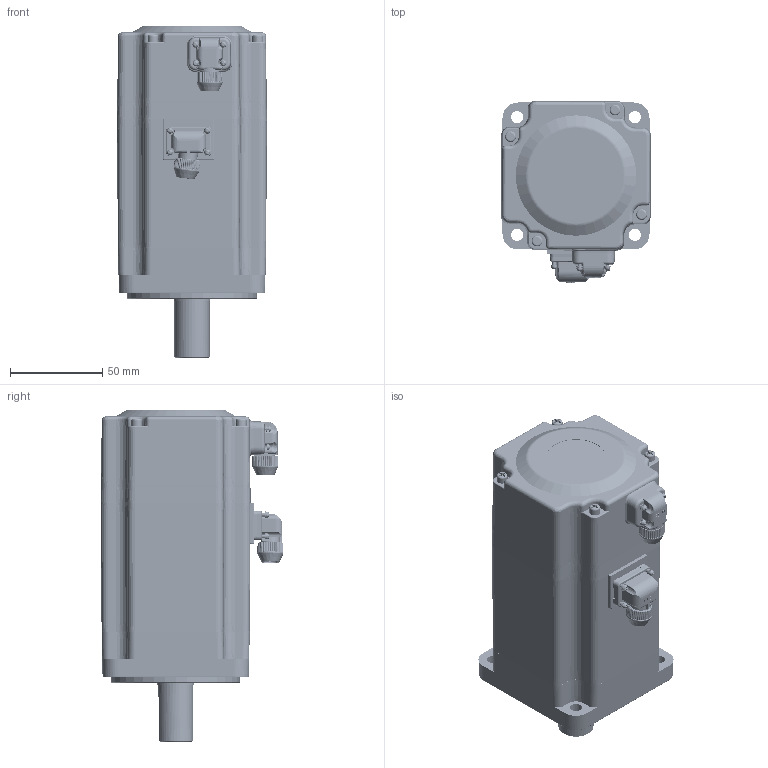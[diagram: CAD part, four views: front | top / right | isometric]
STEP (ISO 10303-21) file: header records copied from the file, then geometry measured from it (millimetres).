
FILE_DESCRIPTION((''),'2;1');
FILE_NAME('80-750W','2017-05-26T',('Administrator'),(''),'PRO/ENGINEER BY PARAMETRIC TECHNOLOGY CORPORATION, 2010280','PRO/ENGINEER BY PARAMETRIC TECHNOLOGY CORPORATION, 2010280','');
FILE_SCHEMA(('CONFIG_CONTROL_DESIGN'));
Products named in the file (1): 80-750W
Bounding box: 81.18 x 98.77 x 179.65 mm (x, y, z)
Volume: 526310 mm3; surface area: 138187.3 mm2
Topology: 44 solids, 76 shells, 8359 faces, 20892 edges, 12444 vertices
Faces by surface type: plane 4572, cylinder 1522, bspline 1164, cone 545, torus 260, sphere 194, extrusion 89, revolution 13
Entity records: 310734 total; most frequent: CARTESIAN_POINT 123562, ORIENTED_EDGE 40966, DIRECTION 34601, EDGE_CURVE 20678, VECTOR 12918, LINE 12829, VERTEX_POINT 12443, AXIS2_PLACEMENT_3D 10835
